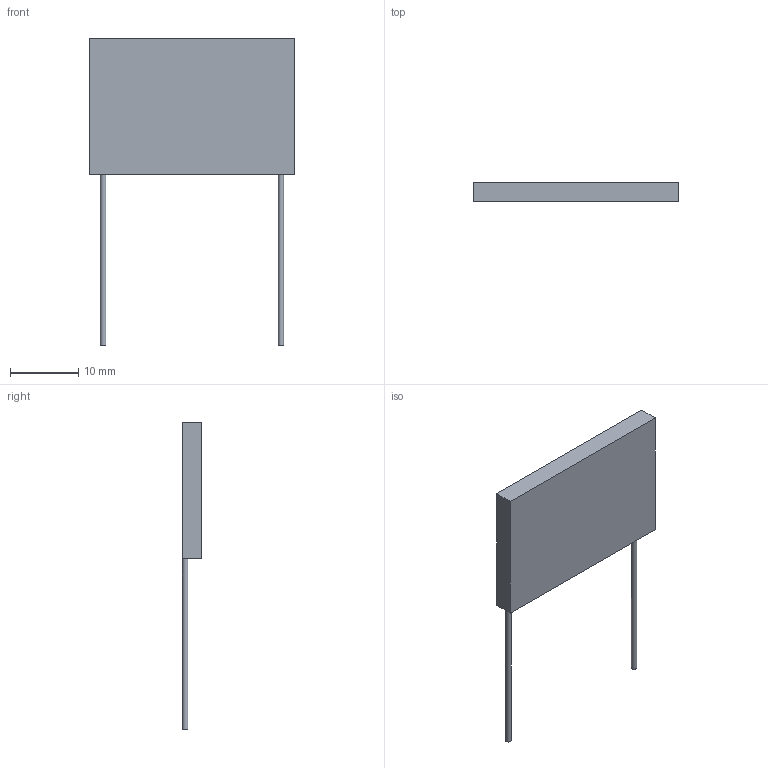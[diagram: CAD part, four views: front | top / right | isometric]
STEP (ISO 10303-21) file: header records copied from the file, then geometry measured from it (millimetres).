
FILE_DESCRIPTION(('STEP AP203'), '1');
FILE_NAME('R1-35-3-3', '', ('UNSPECIFIED'), ('UNSPECIFIED'), 'ASCON STEP Converter 1.6', 'ASCON Math Kernel', '');
FILE_SCHEMA(('CONFIG_CONTROL_DESIGN'));
Length unit declared in the file: millimetre
Bounding box: 30 x 2.8 x 45 mm (x, y, z)
Volume: 1705.1 mm3; surface area: 1605.7 mm2
Topology: 1 solids, 1 shells, 10 faces, 22 edges, 14 vertices
Faces by surface type: plane 8, cylinder 2
Full cylindrical faces by diameter (mm): 0.8 x2
Entity records: 390 total; most frequent: DIRECTION 48, CARTESIAN_POINT 45, ORIENTED_EDGE 40, EDGE_CURVE 20, AXIS2_PLACEMENT_3D 17, VERTEX_POINT 14, LINE 14, VECTOR 14
